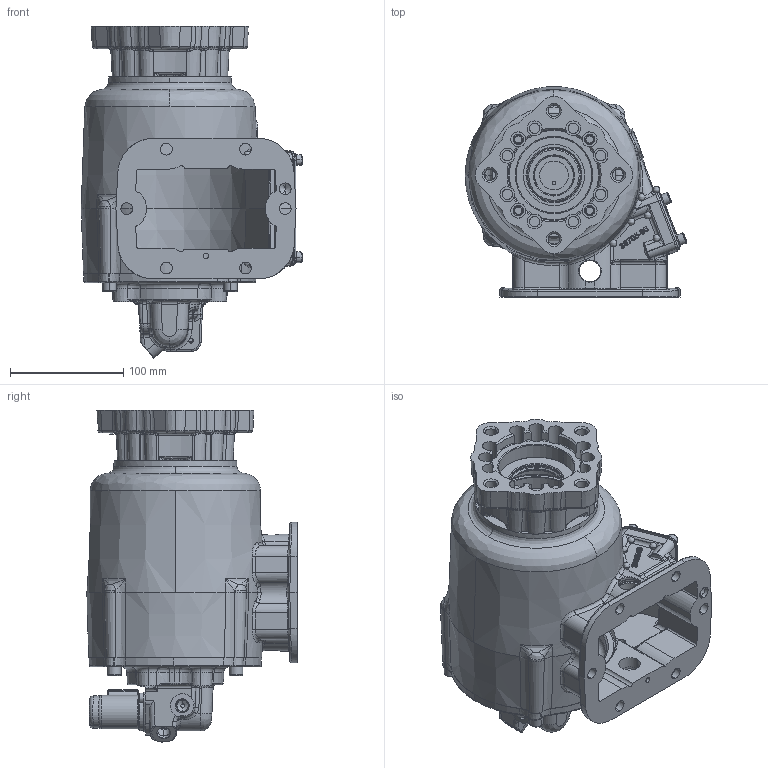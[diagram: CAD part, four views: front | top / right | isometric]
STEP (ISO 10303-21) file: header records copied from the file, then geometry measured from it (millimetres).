
FILE_DESCRIPTION (( 'STEP AP203' ), '1' );
FILE_NAME ('CS6S-XXXXX-S3DX.STEP', '2023-05-30T14:39:44', ( '' ), ( '' ), 'SwSTEP 2.0', 'SolidWorks 2021', '' );
FILE_SCHEMA (( 'CONFIG_CONTROL_DESIGN' ));
Length unit declared in the file: inch
Products named in the file (11): 16T41119; 11T37795; 19T35237; 19T40859; CS6S-XXXXX-S3DX; 19T41118; 15T41597; 14TA4817_Config1; 35T40860-2; 14T39406; 01T37072
Assembly tree (17 placements, depth 3):
  CS6S-XXXXX-S3DX
    01T37072
    16T41119
    19T35237  x4
    19T41118  x4
    15T41597
    35T40860-2
    19T40859  x2
    14TA4817_Config1
      14T39406
      11T37795
Bounding box: 195.33 x 185.25 x 292.61 mm (x, y, z)
Volume: 1314060.6 mm3; surface area: 410556.4 mm2
Topology: 17 solids, 18 shells, 2561 faces, 6549 edges, 4019 vertices
Faces by surface type: bspline 903, cylinder 588, plane 556, cone 325, torus 185, sphere 4
Entity records: 159810 total; most frequent: CARTESIAN_POINT 107107, ORIENTED_EDGE 12176, DIRECTION 8366, EDGE_CURVE 6088, VERTEX_POINT 3804, AXIS2_PLACEMENT_3D 3174, EDGE_LOOP 2624, FACE_OUTER_BOUND 2408
